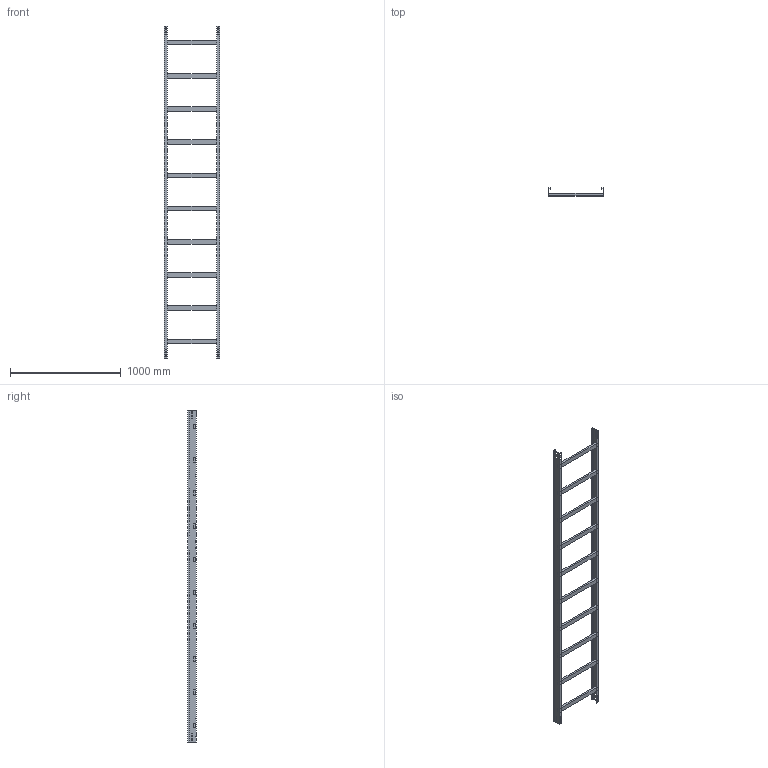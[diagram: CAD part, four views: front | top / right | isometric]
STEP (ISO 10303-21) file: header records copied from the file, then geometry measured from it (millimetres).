
FILE_DESCRIPTION (( 'STEP AP214' ), '1' );
FILE_NAME ('01B3C500.step', '2025-02-21T16:00:54', ( '' ), ( '' ), 'SwSTEP 2.0', 'SolidWorks 2023', '' );
FILE_SCHEMA (( 'AUTOMOTIVE_DESIGN' ));
Length unit declared in the file: millimetre
Products named in the file (3): 01B3C500; LONGH.H75; TRAVERSINO_500
Assembly tree (12 placements, depth 2):
  01B3C500
    LONGH.H75  x2
    TRAVERSINO_500  x10
Bounding box: 500 x 75 x 3000 mm (x, y, z)
Volume: 6364672 mm3; surface area: 2030856 mm2
Topology: 12 solids, 12 shells, 144 faces, 360 edges, 240 vertices
Faces by surface type: plane 144
Entity records: 1696 total; most frequent: CARTESIAN_POINT 283, ORIENTED_EDGE 264, DIRECTION 258, EDGE_CURVE 132, LINE 132, VECTOR 132, VERTEX_POINT 88, EDGE_LOOP 64
